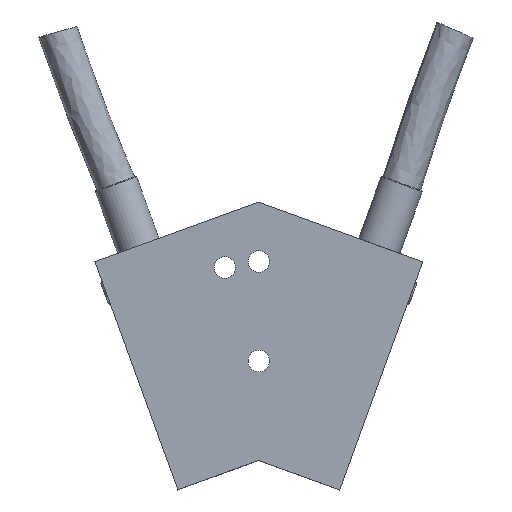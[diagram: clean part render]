
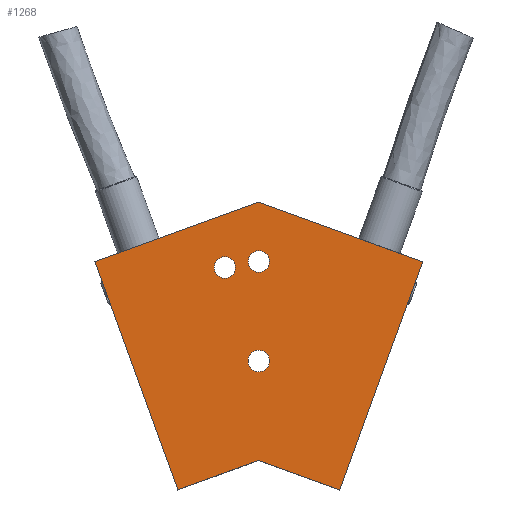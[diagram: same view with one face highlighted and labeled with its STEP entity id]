
A CAD part, top view. The second image highlights one B-rep face of the part: STEP entity #1268.
In plain terms, the highlighted planar face has unit normal (0, 0, 1).
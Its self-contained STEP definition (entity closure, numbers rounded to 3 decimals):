
#503=CARTESIAN_POINT('',(-12.216,-4.446,12.));
#504=VERTEX_POINT('',#503);
#505=CARTESIAN_POINT('',(-24.734,29.946,12.));
#506=VERTEX_POINT('',#505);
#507=CARTESIAN_POINT('',(-12.216,-4.446,12.));
#508=DIRECTION('',(-0.342,0.94,0.0));
#509=VECTOR('',#508,36.6);
#510=LINE('',#507,#509);
#511=EDGE_CURVE('',#504,#506,#510,.T.);
#955=CARTESIAN_POINT('',(1.621,15.0,12.));
#956=VERTEX_POINT('',#955);
#957=CARTESIAN_POINT('',(0.0,15.0,12.));
#958=DIRECTION('',(0.0,0.0,-1.0));
#959=DIRECTION('',(1.0,0.0,0.0));
#960=AXIS2_PLACEMENT_3D('',#957,#958,#959);
#961=CIRCLE('',#960,1.621);
#962=EDGE_CURVE('',#956,#956,#961,.T.);
#983=CARTESIAN_POINT('',(1.621,30.0,12.));
#984=VERTEX_POINT('',#983);
#985=CARTESIAN_POINT('',(0.0,30.0,12.));
#986=DIRECTION('',(0.0,0.0,-1.0));
#987=DIRECTION('',(1.0,0.0,0.0));
#988=AXIS2_PLACEMENT_3D('',#985,#986,#987);
#989=CIRCLE('',#988,1.621);
#990=EDGE_CURVE('',#984,#984,#989,.T.);
#1011=CARTESIAN_POINT('',(-3.509,29.095,12.));
#1012=VERTEX_POINT('',#1011);
#1013=CARTESIAN_POINT('',(-5.13,29.095,12.));
#1014=DIRECTION('',(0.0,0.0,-1.0));
#1015=DIRECTION('',(1.0,0.0,0.0));
#1016=AXIS2_PLACEMENT_3D('',#1013,#1014,#1015);
#1017=CIRCLE('',#1016,1.621);
#1018=EDGE_CURVE('',#1012,#1012,#1017,.T.);
#1082=CARTESIAN_POINT('',(0.,38.949,12.));
#1083=VERTEX_POINT('',#1082);
#1084=CARTESIAN_POINT('',(24.734,29.946,12.));
#1085=VERTEX_POINT('',#1084);
#1086=CARTESIAN_POINT('',(0.,38.949,12.));
#1087=DIRECTION('',(0.94,-0.342,0.0));
#1088=VECTOR('',#1087,26.321);
#1089=LINE('',#1086,#1088);
#1090=EDGE_CURVE('',#1083,#1085,#1089,.T.);
#1125=CARTESIAN_POINT('',(12.216,-4.446,12.));
#1126=VERTEX_POINT('',#1125);
#1127=CARTESIAN_POINT('',(0.0,0.0,12.));
#1128=VERTEX_POINT('',#1127);
#1129=CARTESIAN_POINT('',(12.216,-4.446,12.));
#1130=DIRECTION('',(-0.94,0.342,0.0));
#1131=VECTOR('',#1130,13.0);
#1132=LINE('',#1129,#1131);
#1133=EDGE_CURVE('',#1126,#1128,#1132,.T.);
#1168=CARTESIAN_POINT('',(0.0,0.,12.));
#1169=DIRECTION('',(-0.94,-0.342,0.0));
#1170=VECTOR('',#1169,13.0);
#1171=LINE('',#1168,#1170);
#1172=EDGE_CURVE('',#1128,#504,#1171,.T.);
#1193=CARTESIAN_POINT('',(-24.734,29.946,12.));
#1194=DIRECTION('',(0.94,0.342,0.0));
#1195=VECTOR('',#1194,26.321);
#1196=LINE('',#1193,#1195);
#1197=EDGE_CURVE('',#506,#1083,#1196,.T.);
#1241=CARTESIAN_POINT('',(-9.412,18.307,12.));
#1242=DIRECTION('',(0.0,0.0,1.0));
#1243=DIRECTION('',(1.0,0.0,0.0));
#1244=AXIS2_PLACEMENT_3D('',#1241,#1242,#1243);
#1245=PLANE('',#1244);
#1246=ORIENTED_EDGE('',*,*,#1172,.F.);
#1247=ORIENTED_EDGE('',*,*,#1133,.F.);
#1248=CARTESIAN_POINT('',(24.734,29.946,12.));
#1249=DIRECTION('',(-0.342,-0.94,0.0));
#1250=VECTOR('',#1249,36.6);
#1251=LINE('',#1248,#1250);
#1252=EDGE_CURVE('',#1085,#1126,#1251,.T.);
#1253=ORIENTED_EDGE('',*,*,#1252,.F.);
#1254=ORIENTED_EDGE('',*,*,#1090,.F.);
#1255=ORIENTED_EDGE('',*,*,#1197,.F.);
#1256=ORIENTED_EDGE('',*,*,#511,.F.);
#1257=EDGE_LOOP('',(#1246,#1247,#1253,#1254,#1255,#1256));
#1258=FACE_OUTER_BOUND('',#1257,.T.);
#1259=ORIENTED_EDGE('',*,*,#962,.T.);
#1260=EDGE_LOOP('',(#1259));
#1261=FACE_BOUND('',#1260,.T.);
#1262=ORIENTED_EDGE('',*,*,#1018,.T.);
#1263=EDGE_LOOP('',(#1262));
#1264=FACE_BOUND('',#1263,.T.);
#1265=ORIENTED_EDGE('',*,*,#990,.T.);
#1266=EDGE_LOOP('',(#1265));
#1267=FACE_BOUND('',#1266,.T.);
#1268=ADVANCED_FACE('',(#1258,#1261,#1264,#1267),#1245,.T.);
